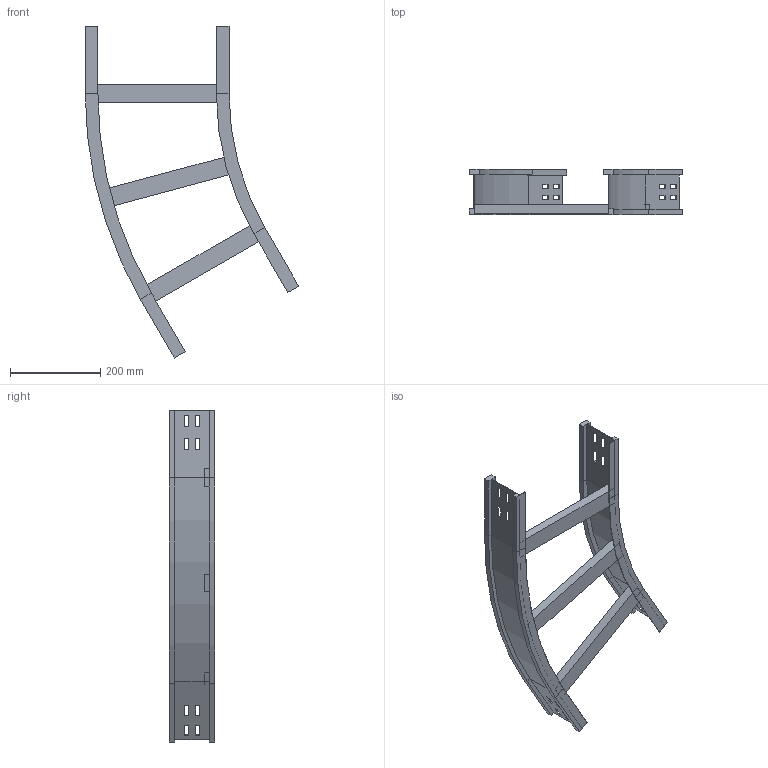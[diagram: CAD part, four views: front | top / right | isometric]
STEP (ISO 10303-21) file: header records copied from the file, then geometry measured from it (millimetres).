
FILE_DESCRIPTION (( 'STEP AP214' ), '1' );
FILE_NAME ('12S6D300.step', '2025-02-21T16:01:21', ( '' ), ( '' ), 'SwSTEP 2.0', 'SolidWorks 2023', '' );
FILE_SCHEMA (( 'AUTOMOTIVE_DESIGN' ));
Length unit declared in the file: millimetre
Products named in the file (4): 12S6D300; LONGH.ESTERNO 30°_H100_R600+300; LONGH.INTERNO30°_H100_R600; TRAVERSINO_300
Assembly tree (5 placements, depth 2):
  12S6D300
    LONGH.INTERNO30°_H100_R600
    LONGH.ESTERNO 30°_H100_R600+300
    TRAVERSINO_300  x3
Bounding box: 472.18 x 100 x 734.4 mm (x, y, z)
Volume: 1450917.4 mm3; surface area: 520687.3 mm2
Topology: 5 solids, 5 shells, 158 faces, 396 edges, 248 vertices
Faces by surface type: plane 146, cylinder 12
Entity records: 4477 total; most frequent: CARTESIAN_POINT 758, ORIENTED_EDGE 744, DIRECTION 704, EDGE_CURVE 372, LINE 348, VECTOR 348, VERTEX_POINT 232, EDGE_LOOP 178
